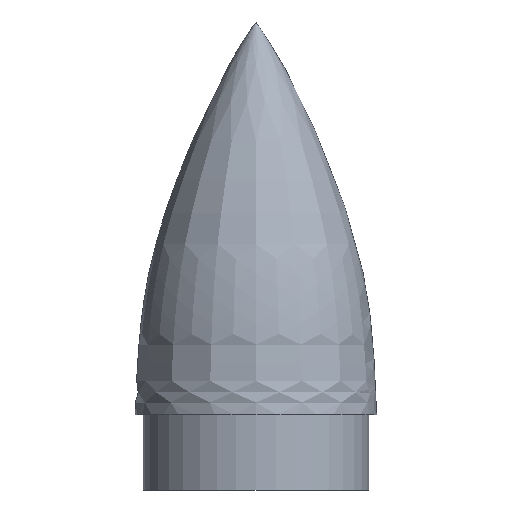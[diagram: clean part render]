
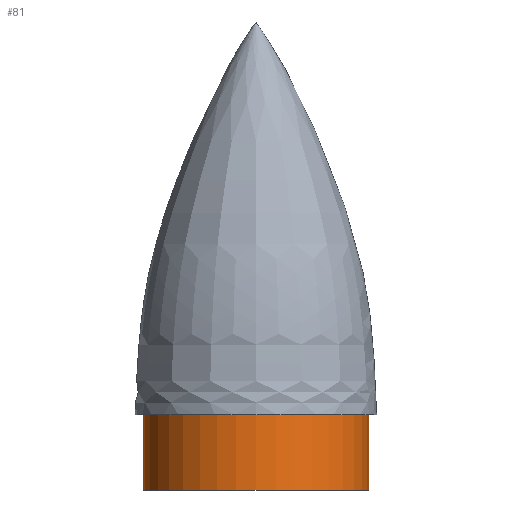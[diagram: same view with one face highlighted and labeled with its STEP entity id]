
A CAD part, front view. The second image highlights one B-rep face of the part: STEP entity #81.
In plain terms, the highlighted cylindrical face has radius 37.5 mm (diameter 75 mm), a full revolution.
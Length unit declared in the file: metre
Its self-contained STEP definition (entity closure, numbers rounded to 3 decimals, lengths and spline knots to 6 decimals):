
#12=CYLINDRICAL_SURFACE('',#102,0.0375);
#22=ORIENTED_EDGE('',*,*,#33,.F.);
#23=ORIENTED_EDGE('',*,*,#32,.T.);
#32=EDGE_CURVE('',#39,#39,#46,.T.);
#33=EDGE_CURVE('',#40,#40,#47,.T.);
#39=VERTEX_POINT('',#425);
#40=VERTEX_POINT('',#428);
#46=CIRCLE('',#101,0.0375);
#47=CIRCLE('',#103,0.0375);
#54=EDGE_LOOP('',(#22));
#55=EDGE_LOOP('',(#23));
#67=FACE_BOUND('',#54,.T.);
#68=FACE_BOUND('',#55,.T.);
#81=ADVANCED_FACE('',(#67,#68),#12,.T.);
#101=AXIS2_PLACEMENT_3D('',#424,#116,#117);
#102=AXIS2_PLACEMENT_3D('',#426,#118,#119);
#103=AXIS2_PLACEMENT_3D('',#427,#120,#121);
#116=DIRECTION('',(0.,0.,-1.));
#117=DIRECTION('',(-1.,0.,0.));
#118=DIRECTION('',(0.,0.,1.));
#119=DIRECTION('',(1.,0.,0.));
#120=DIRECTION('',(0.,0.,-1.));
#121=DIRECTION('',(-1.,0.,0.));
#424=CARTESIAN_POINT('',(0.,0.,0.));
#425=CARTESIAN_POINT('',(-0.0375,0.,0.));
#426=CARTESIAN_POINT('',(0.,0.,-0.025));
#427=CARTESIAN_POINT('',(0.,0.,-0.025));
#428=CARTESIAN_POINT('',(-0.0375,0.,-0.025));
